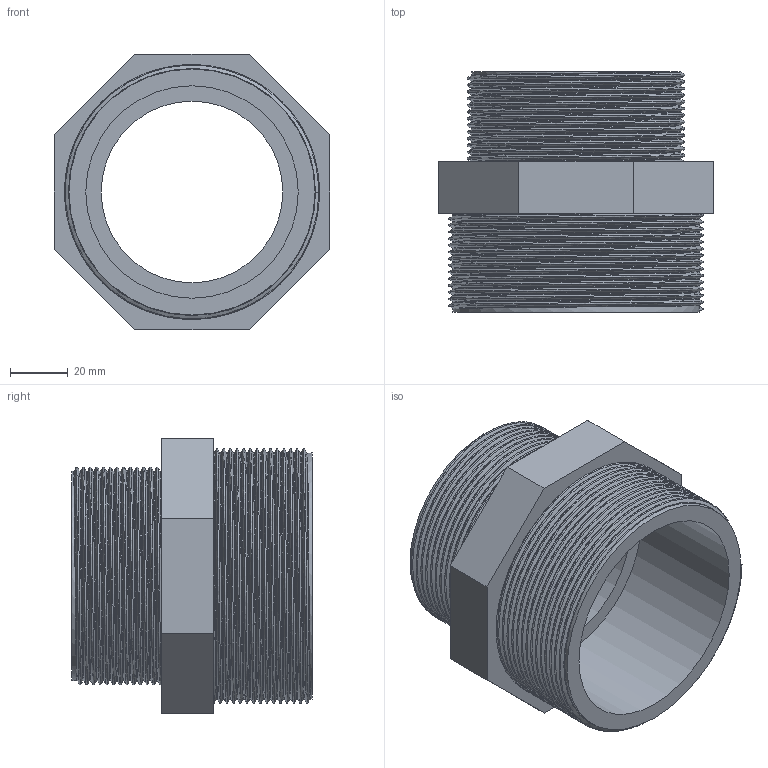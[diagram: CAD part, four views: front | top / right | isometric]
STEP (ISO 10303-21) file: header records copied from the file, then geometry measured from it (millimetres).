
FILE_DESCRIPTION(/* description */ ('PVC nipplo ridotto filettato BSP'),/* implementation_level */ '2;1');
FILE_NAME(/* name */ 'C:\Users\POLYPIPE\Desktop\DATASET INVENTOR\LIBRERIA EFFAST\RACCORDI 3DxWEB\RER\3D_RERNRE\3D_RERNRE090H.stp',/* time_stamp */ '2018-01-19T16:47:13+01:00',/* author */ ('POLYPIPE'),/* organization */ ('Polypipe Italia s.r.l.'),/* preprocessor_version */ 'ST-DEVELOPER v16.1',/* originating_system */ 'Autodesk Inventor 2016',/* authorisation */ '');
FILE_SCHEMA (('CONFIG_CONTROL_DESIGN'));
Length unit declared in the file: millimetre
Products named in the file (1): 3D_RERNRE
Bounding box: 95 x 83 x 95 mm (x, y, z)
Volume: 160883.1 mm3; surface area: 59514 mm2
Topology: 1 solids, 1 shells, 29 faces, 66 edges, 42 vertices
Faces by surface type: plane 15, bspline 10, cylinder 4
Full cylindrical faces by diameter (mm): 62.7 x1, 72.226 x1, 73.3 x1, 84.926 x1
Entity records: 11706 total; most frequent: CARTESIAN_POINT 11094, ORIENTED_EDGE 128, DIRECTION 94, EDGE_CURVE 64, VERTEX_POINT 42, EDGE_LOOP 36, AXIS2_PLACEMENT_3D 32, LINE 30
